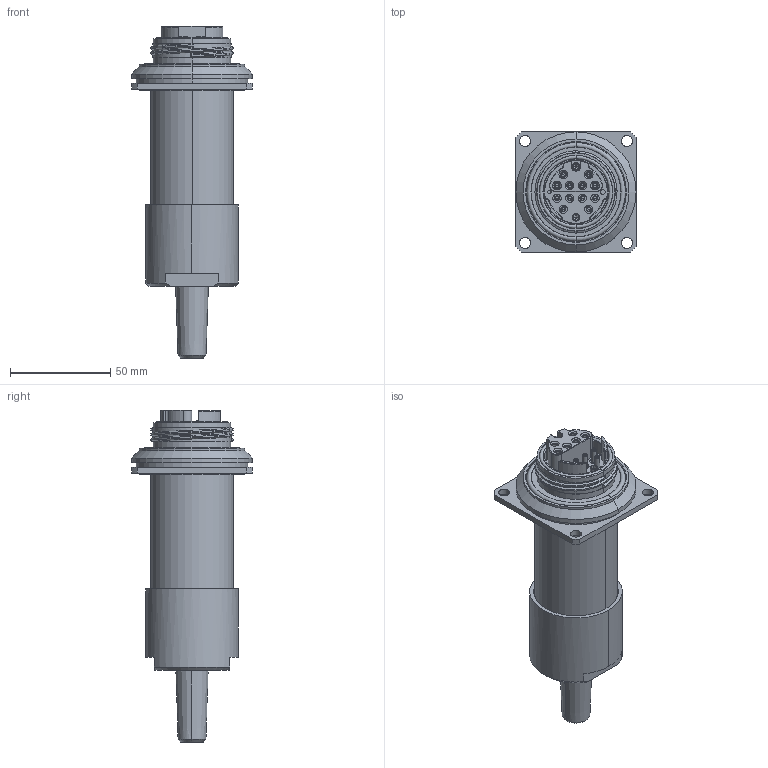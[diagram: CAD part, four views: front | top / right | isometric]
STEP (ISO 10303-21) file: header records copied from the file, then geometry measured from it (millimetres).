
FILE_DESCRIPTION (( 'STEP AP214' ), '1' );
FILE_NAME ('QFOCA-RHXX-12CH-X-SXXX.STEP', '2025-06-09T19:56:51', ( '' ), ( '' ), 'SwSTEP 2.0', 'SolidWorks 2024', '' );
FILE_SCHEMA (( 'AUTOMOTIVE_DESIGN' ));
Length unit declared in the file: inch
Products named in the file (1): QFOCA-RHXX-12CH-X-SXXX
Bounding box: 60.2 x 60.2 x 165.99 mm (x, y, z)
Volume: 195062.8 mm3; surface area: 42423.9 mm2
Topology: 10 solids, 18 shells, 603 faces, 1353 edges, 823 vertices
Faces by surface type: cylinder 217, plane 144, cone 122, torus 110, bspline 10
Entity records: 18706 total; most frequent: CARTESIAN_POINT 4850, DIRECTION 3118, ORIENTED_EDGE 2698, EDGE_CURVE 1349, AXIS2_PLACEMENT_3D 1299, VERTEX_POINT 823, CIRCLE 705, EDGE_LOOP 674
